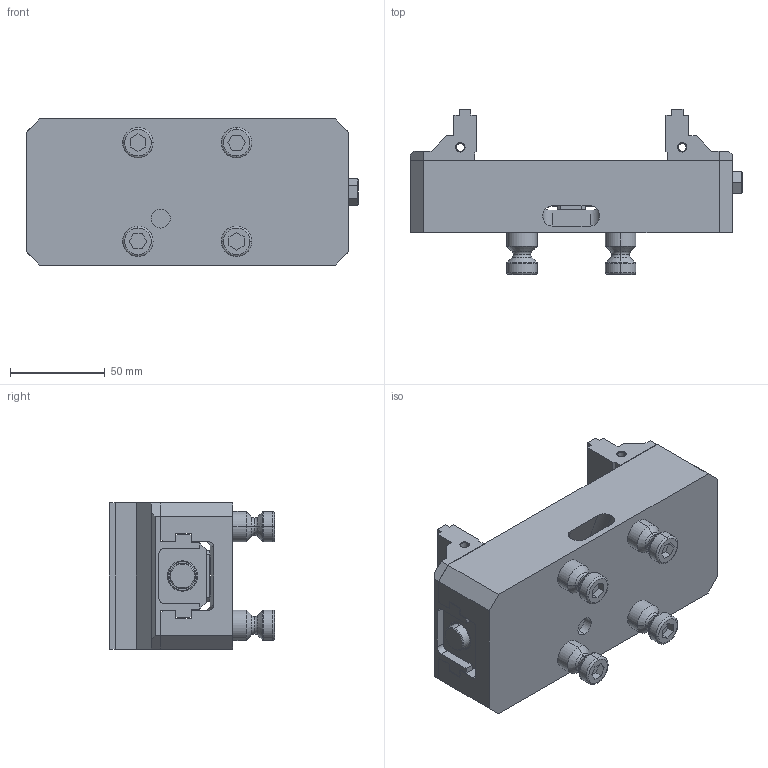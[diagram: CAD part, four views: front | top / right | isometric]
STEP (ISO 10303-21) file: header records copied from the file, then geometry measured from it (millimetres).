
FILE_DESCRIPTION (( 'STEP AP214' ), '1' );
FILE_NAME ('M52S-170.STEP', '2022-05-26T12:31:19', ( '' ), ( '' ), 'SwSTEP 2.0', 'SolidWorks 2018', '' );
FILE_SCHEMA (( 'AUTOMOTIVE_DESIGN' ));
Length unit declared in the file: millimetre
Products named in the file (1): M52S-170
Bounding box: 175 x 87 x 77 mm (x, y, z)
Surface area: 96976.9 mm2 (no closed solid volume)
Topology: 0 solids, 8 shells, 309 faces, 854 edges, 550 vertices
Faces by surface type: plane 191, cylinder 56, torus 32, cone 30
Entity records: 13233 total; most frequent: CARTESIAN_POINT 1948, DIRECTION 1624, ORIENTED_EDGE 1582, EDGE_CURVE 854, LINE 640, VECTOR 640, VERTEX_POINT 550, AXIS2_PLACEMENT_3D 492
